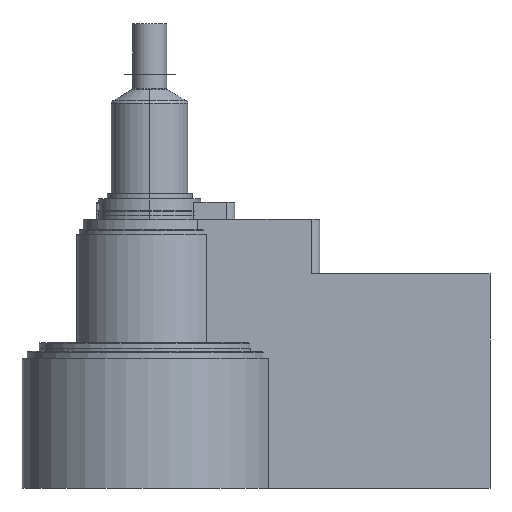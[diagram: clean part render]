
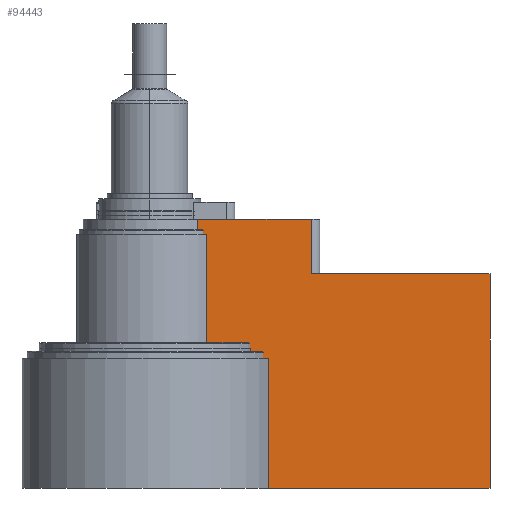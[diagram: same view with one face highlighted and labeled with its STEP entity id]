
A CAD part, front view. The second image highlights one B-rep face of the part: STEP entity #94443.
In plain terms, the highlighted planar face has unit normal (0, -1, 0).
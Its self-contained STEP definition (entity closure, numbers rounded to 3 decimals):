
#1407 = VERTEX_POINT ( 'NONE', #61889 ) ;
#2335 = DIRECTION ( 'NONE',  ( -1., 0., 0. ) ) ;
#4693 = LINE ( 'NONE', #89091, #68804 ) ;
#4708 = DIRECTION ( 'NONE',  ( 0., 1., 0. ) ) ;
#4824 = ORIENTED_EDGE ( 'NONE', *, *, #79413, .F. ) ;
#6861 = CARTESIAN_POINT ( 'NONE',  ( 28.142, -27., -14. ) ) ;
#9456 = EDGE_LOOP ( 'NONE', ( #76507, #4824, #50228, #39459, #82156, #16405, #96898, #57779, #77717, #91354, #95389, #43664 ) ) ;
#9702 = VERTEX_POINT ( 'NONE', #6861 ) ;
#13050 = DIRECTION ( 'NONE',  ( -1., 0., 0. ) ) ;
#14459 = VERTEX_POINT ( 'NONE', #52480 ) ;
#16405 = ORIENTED_EDGE ( 'NONE', *, *, #92129, .F. ) ;
#17027 = VECTOR ( 'NONE', #13050, 1000. ) ;
#19934 = CARTESIAN_POINT ( 'NONE',  ( 28.142, -27., 84.886 ) ) ;
#19942 = EDGE_CURVE ( 'NONE', #1407, #98901, #70821, .T. ) ;
#20639 = VERTEX_POINT ( 'NONE', #99994 ) ;
#22443 = CARTESIAN_POINT ( 'NONE',  ( 28.142, -27., -5. ) ) ;
#25678 = DIRECTION ( 'NONE',  ( 0., 0., -1. ) ) ;
#26072 = CARTESIAN_POINT ( 'NONE',  ( 200., -27., -163. ) ) ;
#26158 = CARTESIAN_POINT ( 'NONE',  ( 28.142, -27., -5. ) ) ;
#26922 = EDGE_CURVE ( 'NONE', #53931, #76232, #4693, .T. ) ;
#27675 = LINE ( 'NONE', #62860, #93138 ) ;
#27748 = LINE ( 'NONE', #58629, #97015 ) ;
#29225 = LINE ( 'NONE', #83702, #70272 ) ;
#29544 = DIRECTION ( 'NONE',  ( -1., 0., 0. ) ) ;
#29738 = PLANE ( 'NONE',  #66579 ) ;
#29959 = LINE ( 'NONE', #26158, #68326 ) ;
#31585 = VERTEX_POINT ( 'NONE', #53466 ) ;
#33098 = CARTESIAN_POINT ( 'NONE',  ( 95., -27., -37. ) ) ;
#37352 = LINE ( 'NONE', #19934, #91339 ) ;
#37468 = VECTOR ( 'NONE', #25678, 1000. ) ;
#37729 = CARTESIAN_POINT ( 'NONE',  ( 0., -27., -81. ) ) ;
#38621 = CARTESIAN_POINT ( 'NONE',  ( 33.466, -27., -81. ) ) ;
#39459 = ORIENTED_EDGE ( 'NONE', *, *, #85765, .T. ) ;
#40871 = VECTOR ( 'NONE', #2335, 1000. ) ;
#42007 = CARTESIAN_POINT ( 'NONE',  ( 59.127, -27., 34.716 ) ) ;
#42264 = DIRECTION ( 'NONE',  ( 1., 0., 0. ) ) ;
#43664 = ORIENTED_EDGE ( 'NONE', *, *, #65506, .F. ) ;
#47504 = CARTESIAN_POINT ( 'NONE',  ( 59.127, -27., -81. ) ) ;
#48292 = VERTEX_POINT ( 'NONE', #47504 ) ;
#48747 = FACE_OUTER_BOUND ( 'NONE', #9456, .T. ) ;
#50228 = ORIENTED_EDGE ( 'NONE', *, *, #96921, .F. ) ;
#52480 = CARTESIAN_POINT ( 'NONE',  ( 59.127, -27., -86.5 ) ) ;
#53466 = CARTESIAN_POINT ( 'NONE',  ( 33.466, -27., -14. ) ) ;
#53931 = VERTEX_POINT ( 'NONE', #85534 ) ;
#55084 = CARTESIAN_POINT ( 'NONE',  ( 69.971, -27., -86.5 ) ) ;
#57779 = ORIENTED_EDGE ( 'NONE', *, *, #90046, .F. ) ;
#58629 = CARTESIAN_POINT ( 'NONE',  ( 200., -27., -37. ) ) ;
#58720 = VERTEX_POINT ( 'NONE', #98281 ) ;
#59249 = VERTEX_POINT ( 'NONE', #38621 ) ;
#61889 = CARTESIAN_POINT ( 'NONE',  ( 95., -27., -5. ) ) ;
#62579 = DIRECTION ( 'NONE',  ( 0., 0., -1. ) ) ;
#62860 = CARTESIAN_POINT ( 'NONE',  ( 0., -27., -14. ) ) ;
#65506 = EDGE_CURVE ( 'NONE', #76232, #14459, #106399, .T. ) ;
#66579 = AXIS2_PLACEMENT_3D ( 'NONE', #87836, #4708, #103637 ) ;
#68326 = VECTOR ( 'NONE', #42264, 1000. ) ;
#68804 = VECTOR ( 'NONE', #71515, 1000. ) ;
#70272 = VECTOR ( 'NONE', #100884, 1000. ) ;
#70821 = LINE ( 'NONE', #92717, #37468 ) ;
#71515 = DIRECTION ( 'NONE',  ( 0., 0., 1. ) ) ;
#73576 = EDGE_CURVE ( 'NONE', #48292, #59249, #104289, .T. ) ;
#74704 = EDGE_CURVE ( 'NONE', #81214, #9702, #37352, .T. ) ;
#75158 = LINE ( 'NONE', #42007, #98171 ) ;
#76232 = VERTEX_POINT ( 'NONE', #55084 ) ;
#76507 = ORIENTED_EDGE ( 'NONE', *, *, #26922, .F. ) ;
#76809 = CARTESIAN_POINT ( 'NONE',  ( 0., -27., -86.5 ) ) ;
#77717 = ORIENTED_EDGE ( 'NONE', *, *, #79699, .F. ) ;
#78794 = VECTOR ( 'NONE', #86620, 1000. ) ;
#79413 = EDGE_CURVE ( 'NONE', #58720, #53931, #91694, .T. ) ;
#79699 = EDGE_CURVE ( 'NONE', #59249, #31585, #100612, .T. ) ;
#81214 = VERTEX_POINT ( 'NONE', #22443 ) ;
#82156 = ORIENTED_EDGE ( 'NONE', *, *, #19942, .F. ) ;
#83702 = CARTESIAN_POINT ( 'NONE',  ( 200., -27., -37. ) ) ;
#85534 = CARTESIAN_POINT ( 'NONE',  ( 69.971, -27., -163. ) ) ;
#85765 = EDGE_CURVE ( 'NONE', #20639, #98901, #29225, .T. ) ;
#86279 = CARTESIAN_POINT ( 'NONE',  ( 33.466, -27., 34.716 ) ) ;
#86620 = DIRECTION ( 'NONE',  ( 0., 0., 1. ) ) ;
#87836 = CARTESIAN_POINT ( 'NONE',  ( 200., -27., -37. ) ) ;
#89091 = CARTESIAN_POINT ( 'NONE',  ( 69.971, -27., 34.716 ) ) ;
#89750 = DIRECTION ( 'NONE',  ( 0., 0., 1. ) ) ;
#90046 = EDGE_CURVE ( 'NONE', #31585, #9702, #27675, .T. ) ;
#90348 = EDGE_CURVE ( 'NONE', #14459, #48292, #75158, .T. ) ;
#91339 = VECTOR ( 'NONE', #62579, 1000. ) ;
#91354 = ORIENTED_EDGE ( 'NONE', *, *, #73576, .F. ) ;
#91694 = LINE ( 'NONE', #26072, #103209 ) ;
#91721 = DIRECTION ( 'NONE',  ( -1., 0., 0. ) ) ;
#92129 = EDGE_CURVE ( 'NONE', #81214, #1407, #29959, .T. ) ;
#92717 = CARTESIAN_POINT ( 'NONE',  ( 95., -27., 84.886 ) ) ;
#93138 = VECTOR ( 'NONE', #29544, 1000. ) ;
#94443 = ADVANCED_FACE ( 'NONE', ( #48747 ), #29738, .F. ) ;
#95389 = ORIENTED_EDGE ( 'NONE', *, *, #90348, .F. ) ;
#96898 = ORIENTED_EDGE ( 'NONE', *, *, #74704, .T. ) ;
#96921 = EDGE_CURVE ( 'NONE', #20639, #58720, #27748, .T. ) ;
#97015 = VECTOR ( 'NONE', #99881, 1000. ) ;
#98171 = VECTOR ( 'NONE', #89750, 1000. ) ;
#98281 = CARTESIAN_POINT ( 'NONE',  ( 200., -27., -163. ) ) ;
#98901 = VERTEX_POINT ( 'NONE', #33098 ) ;
#99881 = DIRECTION ( 'NONE',  ( 0., 0., -1. ) ) ;
#99994 = CARTESIAN_POINT ( 'NONE',  ( 200., -27., -37. ) ) ;
#100612 = LINE ( 'NONE', #86279, #78794 ) ;
#100884 = DIRECTION ( 'NONE',  ( -1., 0., 0. ) ) ;
#103209 = VECTOR ( 'NONE', #91721, 1000. ) ;
#103637 = DIRECTION ( 'NONE',  ( 0., 0., 1. ) ) ;
#104289 = LINE ( 'NONE', #37729, #17027 ) ;
#106399 = LINE ( 'NONE', #76809, #40871 ) ;
